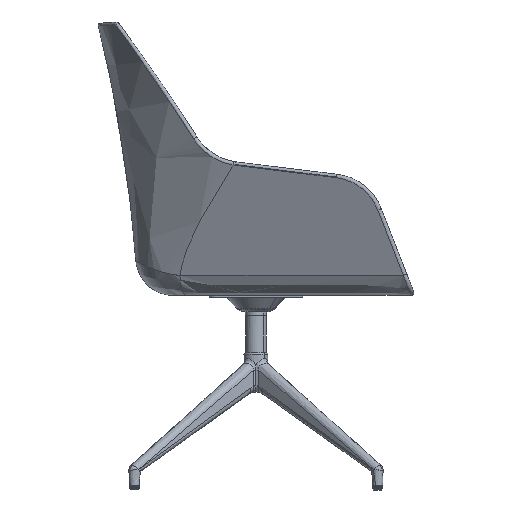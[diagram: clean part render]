
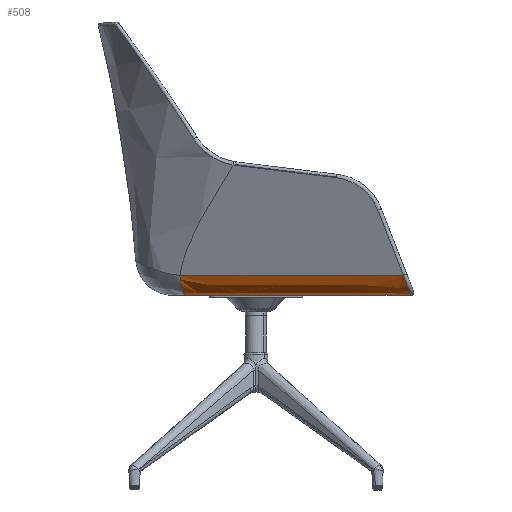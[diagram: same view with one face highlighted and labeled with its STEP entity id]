
A CAD part, left-side view. The second image highlights one B-rep face of the part: STEP entity #508.
In plain terms, the highlighted free-form (B-spline) face has degree [2, 1] with [9, 2] control points.
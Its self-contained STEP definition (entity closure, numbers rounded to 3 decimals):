
#508=ADVANCED_FACE('',(#2074),#25197,.T.);
#2074=FACE_OUTER_BOUND('',#3640,.T.);
#3640=EDGE_LOOP('',(#7201,#7202,#7203,#7204));
#7201=ORIENTED_EDGE('',*,*,#14441,.T.);
#7202=ORIENTED_EDGE('',*,*,#14403,.T.);
#7203=ORIENTED_EDGE('',*,*,#14413,.T.);
#7204=ORIENTED_EDGE('',*,*,#14438,.T.);
#14403=EDGE_CURVE('',#22514,#22513,#18295,.T.);
#14413=EDGE_CURVE('',#22513,#22504,#18303,.T.);
#14438=EDGE_CURVE('',#22504,#22522,#18326,.T.);
#14441=EDGE_CURVE('',#22522,#22514,#18328,.T.);
#18295=B_SPLINE_CURVE_WITH_KNOTS('',3,(#57009,#57010,#57011,#57012,#57013,
#57014,#57015,#57016,#57017,#57018,#57019,#57020,#57021,#57022,#57023,#57024,
#57025,#57026,#57027,#57028,#57029,#57030,#57031,#57032,#57033,#57034,#57035,
#57036,#57037,#57038,#57039,#57040,#57041,#57042),.UNSPECIFIED.,.F.,.F.,
(4,2,2,2,2,2,2,2,2,2,2,2,2,2,2,2,4),(0.,0.062,0.125,
0.187,0.25,0.312,0.375,
0.437,0.5,0.562,0.625,
0.687,0.75,0.812,0.875,
0.937,1.),.UNSPECIFIED.);
#18303=B_SPLINE_CURVE_WITH_KNOTS('',1,(#57353,#57354),.UNSPECIFIED.,.F.,
 .F.,(2,2),(0.,426.231),.UNSPECIFIED.);
#18326=B_SPLINE_CURVE_WITH_KNOTS('',3,(#58639,#58640,#58641,#58642,#58643,
#58644,#58645,#58646,#58647,#58648,#58649,#58650,#58651,#58652,#58653,#58654,
#58655,#58656,#58657,#58658,#58659,#58660,#58661,#58662,#58663,#58664,#58665,
#58666,#58667,#58668,#58669,#58670,#58671,#58672,#58673,#58674,#58675,#58676,
#58677,#58678),.UNSPECIFIED.,.F.,.F.,(4,2,2,2,2,2,2,2,2,2,2,2,2,2,2,2,2,
2,2,4),(0.,0.062,0.125,0.187,0.219,
0.25,0.312,0.375,0.437,0.469,
0.5,0.562,0.625,0.687,0.719,
0.75,0.813,0.875,0.938,
1.),.UNSPECIFIED.);
#18328=B_SPLINE_CURVE_WITH_KNOTS('',3,(#58729,#58730,#58731,#58732),
 .UNSPECIFIED.,.F.,.F.,(4,4),(0.,1.),.UNSPECIFIED.);
#22504=VERTEX_POINT('',#56527);
#22513=VERTEX_POINT('',#56536);
#22514=VERTEX_POINT('',#56537);
#22522=VERTEX_POINT('',#56545);
#25197=(
BOUNDED_SURFACE()
B_SPLINE_SURFACE(2,1,((#50892,#50893),(#50894,#50895),(#50896,#50897),(#50898,
#50899),(#50900,#50901),(#50902,#50903),(#50904,#50905),(#50906,#50907),
(#50908,#50909)),.UNSPECIFIED.,.T.,.F.,.F.)
B_SPLINE_SURFACE_WITH_KNOTS((3,2,2,2,3),(2,2),(0.,78.54,157.08,
235.619,314.159),(0.,538.942),.UNSPECIFIED.)
GEOMETRIC_REPRESENTATION_ITEM()
RATIONAL_B_SPLINE_SURFACE(((1.,1.),(0.707,0.707),
(1.,1.),(0.707,0.707),(1.,1.),(0.707,
0.707),(1.,1.),(0.707,0.707),(1.,1.)))
REPRESENTATION_ITEM('')
SURFACE()
);
#50892=CARTESIAN_POINT('',(-260.184,407.5,617.234));
#50893=CARTESIAN_POINT('',(-127.344,407.5,94.92));
#50894=CARTESIAN_POINT('',(-260.184,457.5,617.234));
#50895=CARTESIAN_POINT('',(-127.344,457.5,94.92));
#50896=CARTESIAN_POINT('',(-211.727,457.5,629.558));
#50897=CARTESIAN_POINT('',(-78.886,457.5,107.244));
#50898=CARTESIAN_POINT('',(-163.269,457.5,641.882));
#50899=CARTESIAN_POINT('',(-30.429,457.5,119.568));
#50900=CARTESIAN_POINT('',(-163.269,407.5,641.882));
#50901=CARTESIAN_POINT('',(-30.429,407.5,119.568));
#50902=CARTESIAN_POINT('',(-163.269,357.5,641.882));
#50903=CARTESIAN_POINT('',(-30.429,357.5,119.568));
#50904=CARTESIAN_POINT('',(-211.727,357.5,629.558));
#50905=CARTESIAN_POINT('',(-78.886,357.5,107.244));
#50906=CARTESIAN_POINT('',(-260.184,357.5,617.234));
#50907=CARTESIAN_POINT('',(-127.344,357.5,94.92));
#50908=CARTESIAN_POINT('',(-260.184,407.5,617.234));
#50909=CARTESIAN_POINT('',(-127.344,407.5,94.92));
#56527=CARTESIAN_POINT('',(-197.851,357.5,575.));
#56536=CARTESIAN_POINT('',(-92.792,357.5,161.92));
#56537=CARTESIAN_POINT('',(-139.536,394.306,150.05));
#56545=CARTESIAN_POINT('',(-244.027,394.306,560.896));
#57009=CARTESIAN_POINT('',(-139.536,394.306,150.05));
#57010=CARTESIAN_POINT('',(-139.213,393.087,150.132));
#57011=CARTESIAN_POINT('',(-138.84,391.865,150.226));
#57012=CARTESIAN_POINT('',(-137.994,389.426,150.44));
#57013=CARTESIAN_POINT('',(-137.52,388.21,150.56));
#57014=CARTESIAN_POINT('',(-136.468,385.796,150.826));
#57015=CARTESIAN_POINT('',(-135.891,384.599,150.972));
#57016=CARTESIAN_POINT('',(-134.632,382.236,151.291));
#57017=CARTESIAN_POINT('',(-133.951,381.07,151.464));
#57018=CARTESIAN_POINT('',(-132.487,378.786,151.835));
#57019=CARTESIAN_POINT('',(-131.704,377.667,152.034));
#57020=CARTESIAN_POINT('',(-130.043,375.489,152.455));
#57021=CARTESIAN_POINT('',(-129.163,374.429,152.678));
#57022=CARTESIAN_POINT('',(-127.315,372.384,153.147));
#57023=CARTESIAN_POINT('',(-126.346,371.397,153.393));
#57024=CARTESIAN_POINT('',(-124.327,369.509,153.906));
#57025=CARTESIAN_POINT('',(-123.277,368.607,154.172));
#57026=CARTESIAN_POINT('',(-121.107,366.899,154.723));
#57027=CARTESIAN_POINT('',(-119.987,366.092,155.008));
#57028=CARTESIAN_POINT('',(-117.689,364.58,155.592));
#57029=CARTESIAN_POINT('',(-116.511,363.876,155.891));
#57030=CARTESIAN_POINT('',(-114.111,362.577,156.501));
#57031=CARTESIAN_POINT('',(-112.888,361.981,156.811));
#57032=CARTESIAN_POINT('',(-110.413,360.902,157.44));
#57033=CARTESIAN_POINT('',(-109.161,360.419,157.758));
#57034=CARTESIAN_POINT('',(-106.639,359.565,158.399));
#57035=CARTESIAN_POINT('',(-105.37,359.195,158.722));
#57036=CARTESIAN_POINT('',(-102.829,358.566,159.368));
#57037=CARTESIAN_POINT('',(-101.557,358.307,159.691));
#57038=CARTESIAN_POINT('',(-99.023,357.897,160.335));
#57039=CARTESIAN_POINT('',(-97.761,357.747,160.656));
#57040=CARTESIAN_POINT('',(-95.258,357.548,161.293));
#57041=CARTESIAN_POINT('',(-94.017,357.5,161.608));
#57042=CARTESIAN_POINT('',(-92.792,357.5,161.92));
#57353=CARTESIAN_POINT('',(-92.792,357.5,161.92));
#57354=CARTESIAN_POINT('',(-197.851,357.5,575.));
#58639=CARTESIAN_POINT('',(-197.851,357.5,575.));
#58640=CARTESIAN_POINT('',(-199.233,357.5,574.967));
#58641=CARTESIAN_POINT('',(-200.605,357.554,574.914));
#58642=CARTESIAN_POINT('',(-203.333,357.771,574.772));
#58643=CARTESIAN_POINT('',(-204.687,357.933,574.682));
#58644=CARTESIAN_POINT('',(-207.379,358.366,574.464));
#58645=CARTESIAN_POINT('',(-208.715,358.638,574.337));
#58646=CARTESIAN_POINT('',(-210.706,359.129,574.116));
#58647=CARTESIAN_POINT('',(-211.367,359.307,574.037));
#58648=CARTESIAN_POINT('',(-212.685,359.691,573.87));
#58649=CARTESIAN_POINT('',(-213.343,359.898,573.781));
#58650=CARTESIAN_POINT('',(-215.294,360.558,573.501));
#58651=CARTESIAN_POINT('',(-216.564,361.05,573.297));
#58652=CARTESIAN_POINT('',(-219.046,362.136,572.853));
#58653=CARTESIAN_POINT('',(-220.258,362.729,572.615));
#58654=CARTESIAN_POINT('',(-222.623,364.017,572.103));
#58655=CARTESIAN_POINT('',(-223.775,364.712,571.83));
#58656=CARTESIAN_POINT('',(-225.46,365.832,571.395));
#58657=CARTESIAN_POINT('',(-226.014,366.219,571.245));
#58658=CARTESIAN_POINT('',(-227.106,367.018,570.937));
#58659=CARTESIAN_POINT('',(-227.644,367.43,570.778));
#58660=CARTESIAN_POINT('',(-229.219,368.694,570.294));
#58661=CARTESIAN_POINT('',(-230.221,369.576,569.958));
#58662=CARTESIAN_POINT('',(-232.134,371.417,569.262));
#58663=CARTESIAN_POINT('',(-233.045,372.376,568.902));
#58664=CARTESIAN_POINT('',(-234.776,374.369,568.157));
#58665=CARTESIAN_POINT('',(-235.596,375.403,567.772));
#58666=CARTESIAN_POINT('',(-236.758,377.012,567.176));
#58667=CARTESIAN_POINT('',(-237.134,377.559,566.974));
#58668=CARTESIAN_POINT('',(-237.86,378.665,566.566));
#58669=CARTESIAN_POINT('',(-238.208,379.223,566.361));
#58670=CARTESIAN_POINT('',(-239.213,380.915,565.739));
#58671=CARTESIAN_POINT('',(-239.828,382.065,565.319));
#58672=CARTESIAN_POINT('',(-240.952,384.406,564.465));
#58673=CARTESIAN_POINT('',(-241.46,385.598,564.032));
#58674=CARTESIAN_POINT('',(-242.374,388.022,563.154));
#58675=CARTESIAN_POINT('',(-242.779,389.255,562.709));
#58676=CARTESIAN_POINT('',(-243.484,391.762,561.808));
#58677=CARTESIAN_POINT('',(-243.783,393.03,561.352));
#58678=CARTESIAN_POINT('',(-244.027,394.306,560.896));
#58729=CARTESIAN_POINT('',(-244.027,394.306,560.896));
#58730=CARTESIAN_POINT('',(-209.197,394.306,423.948));
#58731=CARTESIAN_POINT('',(-174.366,394.306,286.999));
#58732=CARTESIAN_POINT('',(-139.536,394.306,150.05));
